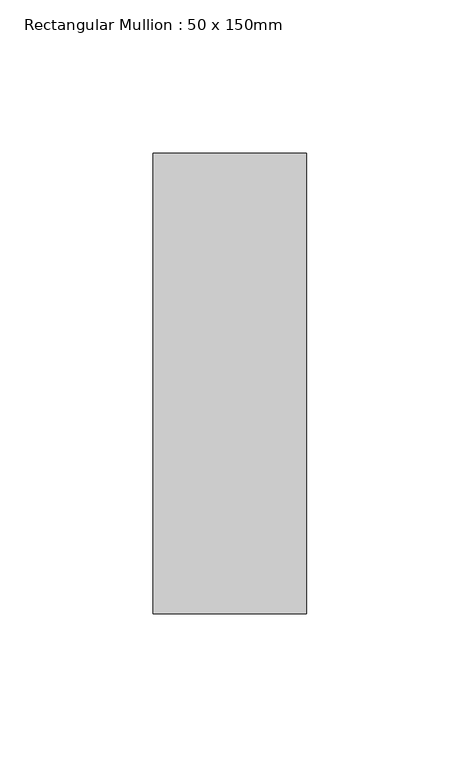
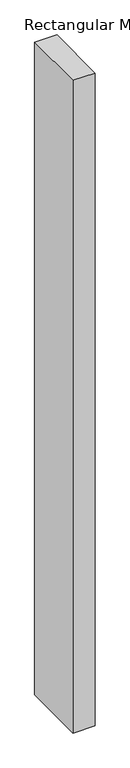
"""IFC4 building model written with IfcOpenShell, lengths in millimetres: member geometry, Rectangular Mullion : 50 x 150mm."""

from ifc_helpers import new_model, si_unit, frame, origin, place, context, project, spatial, polyline, outline, extrude, source, transform, mapped, element, save


def rectangular_mullion_50_x_150mm_539beb98(model_context):
    return source(origin(), model_context, "Body", "SweptSolid", [
        extrude(outline(polyline([(0.0, 0.0), (-0.0375409, -50.0), (-1558.6142744, -50.0), (-1558.672198, 0.0), (0.0, 0.0)])), frame((0.0, -75.0, 0.0), z_axis=(0.0, 1.0, 0.0), x_axis=(0.0, 0.0, 1.0)), (0.0, 0.0, 1.0), 150.0),
    ])


if __name__ == "__main__":
    model = new_model("IFC4")
    model_context = context("Model", 3, world=origin())
    ifc_project = project(units=[si_unit("LENGTHUNIT", "METRE", prefix="MILLI")], contexts=[model_context])
    site = spatial("IfcSite", under=ifc_project)
    building = spatial("IfcBuilding", under=site)
    placement = place(None, origin())
    rectangular_mullion_50_x_150mm_shape = rectangular_mullion_50_x_150mm_539beb98(model_context)
    element("IfcMember", 1, ObjectType="Rectangular Mullion : 50 x 150mm", at=placement, inside=building, context=model_context, shape_type="MappedRepresentation", body=[
        mapped(rectangular_mullion_50_x_150mm_shape, transform((0.0, 0.0, 0.0), x_axis=(1.0, 0.0, 0.0), y_axis=(0.0, 1.0, 0.0), z_axis=(0.0, 0.0, 1.0))),
    ])
    save(model, "model.ifc")
